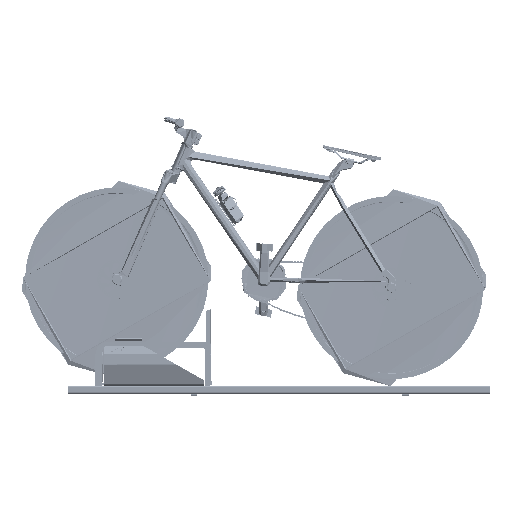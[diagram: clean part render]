
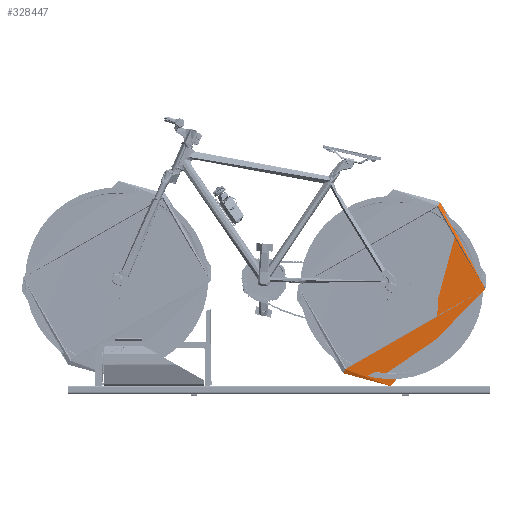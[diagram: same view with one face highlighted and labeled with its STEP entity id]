
A CAD part, top view. The second image highlights one B-rep face of the part: STEP entity #328447.
In plain terms, the highlighted free-form (B-spline) face has degree [3, 3] with [4, 4] control points.
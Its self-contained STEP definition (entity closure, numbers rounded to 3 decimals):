
#8696 =( BOUNDED_CURVE ( )  B_SPLINE_CURVE ( 3, ( #991069, #371185, #1096052, #827204 ),
 .UNSPECIFIED., .F., .F. ) 
 B_SPLINE_CURVE_WITH_KNOTS ( ( 4, 4 ),
 ( 0., 1. ),
 .UNSPECIFIED. ) 
 CURVE ( )  GEOMETRIC_REPRESENTATION_ITEM ( )  RATIONAL_B_SPLINE_CURVE ( ( 1., 0.752, 0.596, 0.533 ) ) 
 REPRESENTATION_ITEM ( '' )  );
#59405 = CARTESIAN_POINT ( 'NONE',  ( 1019.156, -14.629, -750.904 ) ) ;
#116360 = ORIENTED_EDGE ( 'NONE', *, *, #879771, .T. ) ;
#130301 = CARTESIAN_POINT ( 'NONE',  ( 378.789, -14.629, -401.07 ) ) ;
#130681 = VERTEX_POINT ( 'NONE', #945684 ) ;
#135861 = ORIENTED_EDGE ( 'NONE', *, *, #398810, .T. ) ;
#152866 = CARTESIAN_POINT ( 'NONE',  ( 325.311, -23.658, -369.416 ) ) ;
#157444 = CARTESIAN_POINT ( 'NONE',  ( 514.09, -14.629, -419.759 ) ) ;
#217550 = CARTESIAN_POINT ( 'NONE',  ( 695.033, -21.878, 307.356 ) ) ;
#265215 = CARTESIAN_POINT ( 'NONE',  ( 324.285, -14.629, -371.294 ) ) ;
#270948 = CARTESIAN_POINT ( 'NONE',  ( 329.452, -27.045, -361.835 ) ) ;
#275261 =( BOUNDED_CURVE ( )  B_SPLINE_CURVE ( 3, ( #721205, #270948, #890869, #265215 ),
 .UNSPECIFIED., .F., .F. ) 
 B_SPLINE_CURVE_WITH_KNOTS ( ( 4, 4 ),
 ( 0., 1. ),
 .UNSPECIFIED. ) 
 CURVE ( )  GEOMETRIC_REPRESENTATION_ITEM ( )  RATIONAL_B_SPLINE_CURVE ( ( 1., 0.713, 0.713, 1. ) ) 
 REPRESENTATION_ITEM ( '' )  );
#276325 = CARTESIAN_POINT ( 'NONE',  ( 702.869, -23.658, 321.7 ) ) ;
#281004 =( BOUNDED_SURFACE ( )  B_SPLINE_SURFACE ( 3, 3, ( 
 ( #305206, #398697, #59405, #415955 ),
 ( #684995, #1129301, #1041558, #152866 ),
 ( #509496, #866199, #1112032, #662006 ),
 ( #217550, #667783, #438996, #894960 ) ),
 .UNSPECIFIED., .F., .F., .F. ) 
 B_SPLINE_SURFACE_WITH_KNOTS ( ( 4, 4 ),
 ( 4, 4 ),
 ( 0., 1. ),
 ( 0., 1. ),
 .UNSPECIFIED. ) 
 GEOMETRIC_REPRESENTATION_ITEM ( )  RATIONAL_B_SPLINE_SURFACE ( (
 ( 1., 0.333, 0.333, 1.),
 ( 0.713, 0.238, 0.238, 0.713),
 ( 0.713, 0.238, 0.238, 0.713),
 ( 1., 0.333, 0.333, 1.) ) ) 
 REPRESENTATION_ITEM ( '' )  SURFACE ( )  );
#305206 = CARTESIAN_POINT ( 'NONE',  ( 703.895, -14.629, 323.577 ) ) ;
#305716 = CARTESIAN_POINT ( 'NONE',  ( 443.113, -14.629, -419.759 ) ) ;
#316489 = EDGE_CURVE ( 'NONE', #630479, #1037677, #831068, .T. ) ;
#328190 = FACE_OUTER_BOUND ( 'NONE', #383347, .T. ) ;
#328447 = ADVANCED_FACE ( 'NONE', ( #328190 ), #281004, .T. ) ;
#331232 = VERTEX_POINT ( 'NONE', #751556 ) ;
#371185 = CARTESIAN_POINT ( 'NONE',  ( 804.391, -21.878, 247.613 ) ) ;
#383347 = EDGE_LOOP ( 'NONE', ( #946352, #606862, #135861, #609923, #116360, #552163 ) ) ;
#385013 = VERTEX_POINT ( 'NONE', #930079 ) ;
#398697 = CARTESIAN_POINT ( 'NONE',  ( 1398.766, -14.629, -56.032 ) ) ;
#398769 =( BOUNDED_CURVE ( )  B_SPLINE_CURVE ( 3, ( #893984, #899751, #531564, #449533 ),
 .UNSPECIFIED., .F., .F. ) 
 B_SPLINE_CURVE_WITH_KNOTS ( ( 4, 4 ),
 ( 0., 1. ),
 .UNSPECIFIED. ) 
 CURVE ( )  GEOMETRIC_REPRESENTATION_ITEM ( )  RATIONAL_B_SPLINE_CURVE ( ( 0.676, 0.361, 0.469, 1. ) ) 
 REPRESENTATION_ITEM ( '' )  );
#398810 = EDGE_CURVE ( 'NONE', #807848, #630479, #398769, .T. ) ;
#415955 = CARTESIAN_POINT ( 'NONE',  ( 324.285, -14.629, -371.294 ) ) ;
#424010 = EDGE_CURVE ( 'NONE', #130681, #385013, #275261, .T. ) ;
#438996 = CARTESIAN_POINT ( 'NONE',  ( 995.574, -21.878, -716.958 ) ) ;
#449533 = CARTESIAN_POINT ( 'NONE',  ( 703.895, -14.629, 323.577 ) ) ;
#463321 = CARTESIAN_POINT ( 'NONE',  ( 698.727, -27.045, 314.119 ) ) ;
#481226 = CARTESIAN_POINT ( 'NONE',  ( 514.09, -14.629, -419.759 ) ) ;
#509362 =( BOUNDED_CURVE ( )  B_SPLINE_CURVE ( 3, ( #687521, #1032636, #1120322, #582645 ),
 .UNSPECIFIED., .F., .F. ) 
 B_SPLINE_CURVE_WITH_KNOTS ( ( 4, 4 ),
 ( 0., 1. ),
 .UNSPECIFIED. ) 
 CURVE ( )  GEOMETRIC_REPRESENTATION_ITEM ( )  RATIONAL_B_SPLINE_CURVE ( ( 0.533, 0.426, 0.582, 1. ) ) 
 REPRESENTATION_ITEM ( '' )  );
#509496 = CARTESIAN_POINT ( 'NONE',  ( 698.727, -27.045, 314.119 ) ) ;
#531564 = CARTESIAN_POINT ( 'NONE',  ( 1097.361, -14.629, 108.626 ) ) ;
#552163 = ORIENTED_EDGE ( 'NONE', *, *, #937344, .T. ) ;
#582645 = CARTESIAN_POINT ( 'NONE',  ( 333.147, -21.878, -355.072 ) ) ;
#592498 = EDGE_CURVE ( 'NONE', #385013, #807848, #713781, .T. ) ;
#601471 = CARTESIAN_POINT ( 'NONE',  ( 703.895, -14.629, 323.577 ) ) ;
#606862 = ORIENTED_EDGE ( 'NONE', *, *, #592498, .T. ) ;
#609923 = ORIENTED_EDGE ( 'NONE', *, *, #316489, .T. ) ;
#630479 = VERTEX_POINT ( 'NONE', #601471 ) ;
#633096 = CARTESIAN_POINT ( 'NONE',  ( 695.033, -21.878, 307.356 ) ) ;
#645157 = CARTESIAN_POINT ( 'NONE',  ( 324.285, -14.629, -371.294 ) ) ;
#662006 = CARTESIAN_POINT ( 'NONE',  ( 329.452, -27.045, -361.835 ) ) ;
#667783 = CARTESIAN_POINT ( 'NONE',  ( 1357.46, -21.878, -54.53 ) ) ;
#684995 = CARTESIAN_POINT ( 'NONE',  ( 702.869, -23.658, 321.7 ) ) ;
#687521 = CARTESIAN_POINT ( 'NONE',  ( 891.506, -21.878, -23.858 ) ) ;
#713781 =( BOUNDED_CURVE ( )  B_SPLINE_CURVE ( 3, ( #645157, #130301, #305716, #481226 ),
 .UNSPECIFIED., .F., .F. ) 
 B_SPLINE_CURVE_WITH_KNOTS ( ( 4, 4 ),
 ( 0., 1. ),
 .UNSPECIFIED. ) 
 CURVE ( )  GEOMETRIC_REPRESENTATION_ITEM ( )  RATIONAL_B_SPLINE_CURVE ( ( 1., 0.864, 0.756, 0.676 ) ) 
 REPRESENTATION_ITEM ( '' )  );
#721205 = CARTESIAN_POINT ( 'NONE',  ( 333.147, -21.878, -355.072 ) ) ;
#751556 = CARTESIAN_POINT ( 'NONE',  ( 891.506, -21.878, -23.858 ) ) ;
#774590 = CARTESIAN_POINT ( 'NONE',  ( 695.033, -21.878, 307.356 ) ) ;
#807848 = VERTEX_POINT ( 'NONE', #157444 ) ;
#827204 = CARTESIAN_POINT ( 'NONE',  ( 891.506, -21.878, -23.858 ) ) ;
#831068 =( BOUNDED_CURVE ( )  B_SPLINE_CURVE ( 3, ( #1083119, #276325, #463321, #633096 ),
 .UNSPECIFIED., .F., .F. ) 
 B_SPLINE_CURVE_WITH_KNOTS ( ( 4, 4 ),
 ( 0., 1. ),
 .UNSPECIFIED. ) 
 CURVE ( )  GEOMETRIC_REPRESENTATION_ITEM ( )  RATIONAL_B_SPLINE_CURVE ( ( 1., 0.713, 0.713, 1. ) ) 
 REPRESENTATION_ITEM ( '' )  );
#866199 = CARTESIAN_POINT ( 'NONE',  ( 1374.681, -27.045, -55.157 ) ) ;
#879771 = EDGE_CURVE ( 'NONE', #1037677, #331232, #8696, .T. ) ;
#890869 = CARTESIAN_POINT ( 'NONE',  ( 325.311, -23.658, -369.416 ) ) ;
#893984 = CARTESIAN_POINT ( 'NONE',  ( 514.09, -14.629, -419.759 ) ) ;
#894960 = CARTESIAN_POINT ( 'NONE',  ( 333.147, -21.878, -355.072 ) ) ;
#899751 = CARTESIAN_POINT ( 'NONE',  ( 1096.632, -14.629, -419.759 ) ) ;
#930079 = CARTESIAN_POINT ( 'NONE',  ( 324.285, -14.629, -371.294 ) ) ;
#937344 = EDGE_CURVE ( 'NONE', #331232, #130681, #509362, .T. ) ;
#945684 = CARTESIAN_POINT ( 'NONE',  ( 333.147, -21.878, -355.072 ) ) ;
#946352 = ORIENTED_EDGE ( 'NONE', *, *, #424010, .T. ) ;
#991069 = CARTESIAN_POINT ( 'NONE',  ( 695.033, -21.878, 307.356 ) ) ;
#1032636 = CARTESIAN_POINT ( 'NONE',  ( 891.506, -21.878, -394.798 ) ) ;
#1037677 = VERTEX_POINT ( 'NONE', #774590 ) ;
#1041558 = CARTESIAN_POINT ( 'NONE',  ( 1016.426, -23.658, -746.974 ) ) ;
#1083119 = CARTESIAN_POINT ( 'NONE',  ( 703.895, -14.629, 323.577 ) ) ;
#1096052 = CARTESIAN_POINT ( 'NONE',  ( 891.506, -21.878, 133.332 ) ) ;
#1112032 = CARTESIAN_POINT ( 'NONE',  ( 1005.406, -27.045, -731.11 ) ) ;
#1120322 = CARTESIAN_POINT ( 'NONE',  ( 571.467, -21.878, -485.267 ) ) ;
#1129301 = CARTESIAN_POINT ( 'NONE',  ( 1393.984, -23.658, -55.859 ) ) ;
